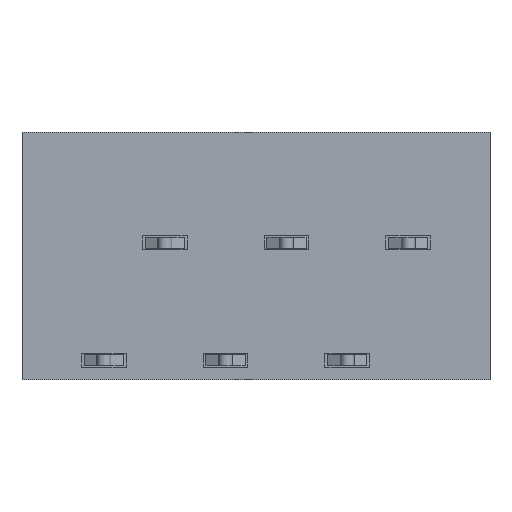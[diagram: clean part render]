
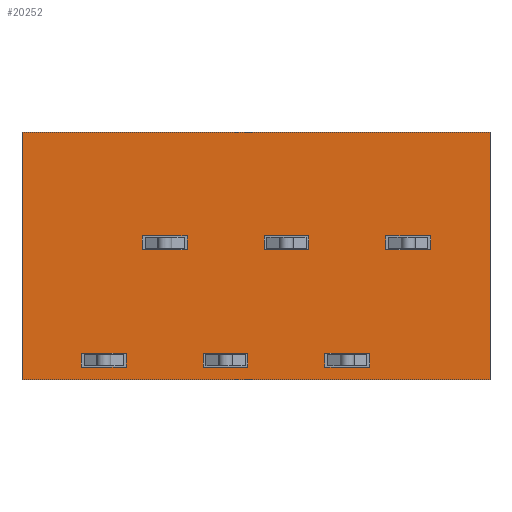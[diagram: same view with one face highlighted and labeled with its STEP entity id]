
A CAD part, front view. The second image highlights one B-rep face of the part: STEP entity #20252.
In plain terms, the highlighted planar face has unit normal (0, -1, 0).
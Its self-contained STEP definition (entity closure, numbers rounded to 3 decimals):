
#1575=VERTEX_POINT('',#27632);
#1576=VERTEX_POINT('',#27634);
#1577=VERTEX_POINT('',#27638);
#1578=VERTEX_POINT('',#27642);
#1747=VERTEX_POINT('',#29002);
#1748=VERTEX_POINT('',#29004);
#1783=VERTEX_POINT('',#29085);
#1784=VERTEX_POINT('',#29086);
#1785=VERTEX_POINT('',#29091);
#1786=VERTEX_POINT('',#29095);
#1824=VERTEX_POINT('',#29194);
#1825=VERTEX_POINT('',#29195);
#1857=VERTEX_POINT('',#29271);
#1858=VERTEX_POINT('',#29272);
#1859=VERTEX_POINT('',#29277);
#1860=VERTEX_POINT('',#29281);
#2050=VERTEX_POINT('',#30683);
#2051=VERTEX_POINT('',#30685);
#2052=VERTEX_POINT('',#30689);
#2053=VERTEX_POINT('',#30693);
#2084=VERTEX_POINT('',#30770);
#2085=VERTEX_POINT('',#30771);
#2086=VERTEX_POINT('',#30776);
#2087=VERTEX_POINT('',#30780);
#2276=VERTEX_POINT('',#32182);
#2277=VERTEX_POINT('',#32184);
#2278=VERTEX_POINT('',#32188);
#2279=VERTEX_POINT('',#32192);
#3613=VECTOR('',#22668,1.);
#3615=VECTOR('',#22671,1.);
#3617=VECTOR('',#22674,1.);
#3619=VECTOR('',#22677,1.);
#3813=VECTOR('',#23053,1.);
#3850=VECTOR('',#23102,1.);
#3853=VECTOR('',#23106,1.);
#3855=VECTOR('',#23109,1.);
#3898=VECTOR('',#23169,1.);
#3902=VECTOR('',#23175,1.);
#3937=VECTOR('',#23222,1.);
#3940=VECTOR('',#23226,1.);
#3942=VECTOR('',#23229,1.);
#4126=VECTOR('',#23589,1.);
#4157=VECTOR('',#23631,1.);
#4159=VECTOR('',#23634,1.);
#4161=VECTOR('',#23637,1.);
#4163=VECTOR('',#23640,1.);
#4196=VECTOR('',#23686,1.);
#4199=VECTOR('',#23690,1.);
#4201=VECTOR('',#23693,1.);
#4203=VECTOR('',#23696,1.);
#4386=VECTOR('',#24055,1.);
#4416=VECTOR('',#24096,1.);
#4418=VECTOR('',#24099,1.);
#4420=VECTOR('',#24102,1.);
#4422=VECTOR('',#24105,1.);
#4423=VECTOR('',#24107,1.);
#5833=LINE('',#27633,#3613);
#5835=LINE('',#27637,#3615);
#5837=LINE('',#27641,#3617);
#5839=LINE('',#27645,#3619);
#6031=LINE('',#29003,#3813);
#6068=LINE('',#29084,#3850);
#6071=LINE('',#29090,#3853);
#6073=LINE('',#29094,#3855);
#6116=LINE('',#29185,#3898);
#6120=LINE('',#29193,#3902);
#6155=LINE('',#29270,#3937);
#6158=LINE('',#29276,#3940);
#6160=LINE('',#29280,#3942);
#6342=LINE('',#30615,#4126);
#6373=LINE('',#30684,#4157);
#6375=LINE('',#30688,#4159);
#6377=LINE('',#30692,#4161);
#6379=LINE('',#30696,#4163);
#6412=LINE('',#30769,#4196);
#6415=LINE('',#30775,#4199);
#6417=LINE('',#30779,#4201);
#6419=LINE('',#30783,#4203);
#6600=LINE('',#32116,#4386);
#6630=LINE('',#32183,#4416);
#6632=LINE('',#32187,#4418);
#6634=LINE('',#32191,#4420);
#6636=LINE('',#32195,#4422);
#6637=LINE('',#32197,#4423);
#8175=EDGE_CURVE('',#1576,#1575,#5833,.T.);
#8177=EDGE_CURVE('',#1577,#1576,#5835,.T.);
#8179=EDGE_CURVE('',#1578,#1577,#5837,.T.);
#8181=EDGE_CURVE('',#1575,#1578,#5839,.T.);
#8466=EDGE_CURVE('',#1748,#1747,#6031,.T.);
#8507=EDGE_CURVE('',#1783,#1784,#6068,.T.);
#8510=EDGE_CURVE('',#1784,#1785,#6071,.T.);
#8512=EDGE_CURVE('',#1786,#1783,#6073,.T.);
#8558=EDGE_CURVE('',#1786,#1785,#6116,.T.);
#8562=EDGE_CURVE('',#1824,#1825,#6120,.T.);
#8601=EDGE_CURVE('',#1857,#1858,#6155,.T.);
#8604=EDGE_CURVE('',#1858,#1859,#6158,.T.);
#8606=EDGE_CURVE('',#1860,#1857,#6160,.T.);
#8880=EDGE_CURVE('',#1860,#1859,#6342,.T.);
#8915=EDGE_CURVE('',#2051,#2050,#6373,.T.);
#8917=EDGE_CURVE('',#2052,#2051,#6375,.T.);
#8919=EDGE_CURVE('',#2053,#2052,#6377,.T.);
#8921=EDGE_CURVE('',#2050,#2053,#6379,.T.);
#8958=EDGE_CURVE('',#2084,#2085,#6412,.T.);
#8961=EDGE_CURVE('',#2085,#2086,#6415,.T.);
#8963=EDGE_CURVE('',#2087,#2084,#6417,.T.);
#8965=EDGE_CURVE('',#1748,#1825,#6419,.T.);
#9238=EDGE_CURVE('',#2087,#2086,#6600,.T.);
#9272=EDGE_CURVE('',#2277,#2276,#6630,.T.);
#9274=EDGE_CURVE('',#2278,#2277,#6632,.T.);
#9276=EDGE_CURVE('',#2279,#2278,#6634,.T.);
#9278=EDGE_CURVE('',#2276,#2279,#6636,.T.);
#9279=EDGE_CURVE('',#1747,#1824,#6637,.T.);
#13948=ORIENTED_EDGE('',*,*,#9279,.T.);
#13949=ORIENTED_EDGE('',*,*,#8562,.T.);
#13950=ORIENTED_EDGE('',*,*,#8965,.F.);
#13951=ORIENTED_EDGE('',*,*,#8466,.T.);
#13952=ORIENTED_EDGE('',*,*,#8175,.T.);
#13953=ORIENTED_EDGE('',*,*,#8181,.T.);
#13954=ORIENTED_EDGE('',*,*,#8179,.T.);
#13955=ORIENTED_EDGE('',*,*,#8177,.T.);
#13956=ORIENTED_EDGE('',*,*,#8880,.F.);
#13957=ORIENTED_EDGE('',*,*,#8606,.T.);
#13958=ORIENTED_EDGE('',*,*,#8601,.T.);
#13959=ORIENTED_EDGE('',*,*,#8604,.T.);
#13960=ORIENTED_EDGE('',*,*,#9238,.F.);
#13961=ORIENTED_EDGE('',*,*,#8963,.T.);
#13962=ORIENTED_EDGE('',*,*,#8958,.T.);
#13963=ORIENTED_EDGE('',*,*,#8961,.T.);
#13964=ORIENTED_EDGE('',*,*,#8915,.T.);
#13965=ORIENTED_EDGE('',*,*,#8921,.T.);
#13966=ORIENTED_EDGE('',*,*,#8919,.T.);
#13967=ORIENTED_EDGE('',*,*,#8917,.T.);
#13968=ORIENTED_EDGE('',*,*,#9272,.T.);
#13969=ORIENTED_EDGE('',*,*,#9278,.T.);
#13970=ORIENTED_EDGE('',*,*,#9276,.T.);
#13971=ORIENTED_EDGE('',*,*,#9274,.T.);
#13972=ORIENTED_EDGE('',*,*,#8558,.F.);
#13973=ORIENTED_EDGE('',*,*,#8512,.T.);
#13974=ORIENTED_EDGE('',*,*,#8507,.T.);
#13975=ORIENTED_EDGE('',*,*,#8510,.T.);
#17546=EDGE_LOOP('',(#13948,#13949,#13950,#13951));
#17547=EDGE_LOOP('',(#13952,#13953,#13954,#13955));
#17548=EDGE_LOOP('',(#13956,#13957,#13958,#13959));
#17549=EDGE_LOOP('',(#13960,#13961,#13962,#13963));
#17550=EDGE_LOOP('',(#13964,#13965,#13966,#13967));
#17551=EDGE_LOOP('',(#13968,#13969,#13970,#13971));
#17552=EDGE_LOOP('',(#13972,#13973,#13974,#13975));
#18924=FACE_BOUND('',#17546,.T.);
#18925=FACE_BOUND('',#17547,.T.);
#18926=FACE_BOUND('',#17548,.T.);
#18927=FACE_BOUND('',#17549,.T.);
#18928=FACE_BOUND('',#17550,.T.);
#18929=FACE_BOUND('',#17551,.T.);
#18930=FACE_BOUND('',#17552,.T.);
#20252=ADVANCED_FACE('',(#18924,#18925,#18926,#18927,#18928,#18929,#18930),
#38431,.T.);
#21475=AXIS2_PLACEMENT_3D('',#32196,#24106,$);
#22668=DIRECTION('',(-1.,0.,0.));
#22671=DIRECTION('',(0.,0.,-1.));
#22674=DIRECTION('',(1.,0.,0.));
#22677=DIRECTION('',(0.,0.,1.));
#23053=DIRECTION('',(0.,0.,-1.));
#23102=DIRECTION('',(1.,0.,0.));
#23106=DIRECTION('',(0.,0.,-1.));
#23109=DIRECTION('',(0.,0.,1.));
#23169=DIRECTION('',(1.,0.,0.));
#23175=DIRECTION('',(0.,0.,1.));
#23222=DIRECTION('',(1.,0.,0.));
#23226=DIRECTION('',(0.,0.,-1.));
#23229=DIRECTION('',(0.,0.,1.));
#23589=DIRECTION('',(1.,0.,0.));
#23631=DIRECTION('',(-1.,0.,0.));
#23634=DIRECTION('',(0.,0.,-1.));
#23637=DIRECTION('',(1.,0.,0.));
#23640=DIRECTION('',(0.,0.,1.));
#23686=DIRECTION('',(1.,0.,0.));
#23690=DIRECTION('',(0.,0.,-1.));
#23693=DIRECTION('',(0.,0.,1.));
#23696=DIRECTION('',(1.,0.,0.));
#24055=DIRECTION('',(1.,0.,0.));
#24096=DIRECTION('',(-1.,0.,0.));
#24099=DIRECTION('',(0.,0.,-1.));
#24102=DIRECTION('',(1.,0.,0.));
#24105=DIRECTION('',(0.,0.,1.));
#24106=DIRECTION('',(0.,-1.,0.));
#24107=DIRECTION('',(1.,0.,0.));
#27632=CARTESIAN_POINT('',(4.25,0.,0.9));
#27633=CARTESIAN_POINT('',(4.05,0.,0.9));
#27634=CARTESIAN_POINT('',(7.45,0.,0.9));
#27637=CARTESIAN_POINT('',(7.45,0.,3.025));
#27638=CARTESIAN_POINT('',(7.45,0.,1.9));
#27641=CARTESIAN_POINT('',(4.05,0.,1.9));
#27642=CARTESIAN_POINT('',(4.25,0.,1.9));
#27645=CARTESIAN_POINT('',(4.25,0.,3.025));
#29002=CARTESIAN_POINT('',(0.,0.,0.));
#29003=CARTESIAN_POINT('',(0.,0.,17.7));
#29004=CARTESIAN_POINT('',(0.,0.,17.7));
#29084=CARTESIAN_POINT('',(8.4,0.,10.3));
#29085=CARTESIAN_POINT('',(8.6,0.,10.3));
#29086=CARTESIAN_POINT('',(11.8,0.,10.3));
#29090=CARTESIAN_POINT('',(11.8,0.,11.65));
#29091=CARTESIAN_POINT('',(11.8,0.,9.3));
#29094=CARTESIAN_POINT('',(8.6,0.,11.65));
#29095=CARTESIAN_POINT('',(8.6,0.,9.3));
#29185=CARTESIAN_POINT('',(2.25,0.,9.3));
#29193=CARTESIAN_POINT('',(33.45,0.,9.3));
#29194=CARTESIAN_POINT('',(33.45,0.,0.));
#29195=CARTESIAN_POINT('',(33.45,0.,17.7));
#29270=CARTESIAN_POINT('',(25.8,0.,10.3));
#29271=CARTESIAN_POINT('',(26.,0.,10.3));
#29272=CARTESIAN_POINT('',(29.2,0.,10.3));
#29276=CARTESIAN_POINT('',(29.2,0.,11.65));
#29277=CARTESIAN_POINT('',(29.2,0.,9.3));
#29280=CARTESIAN_POINT('',(26.,0.,11.65));
#29281=CARTESIAN_POINT('',(26.,0.,9.3));
#30615=CARTESIAN_POINT('',(19.65,0.,9.3));
#30683=CARTESIAN_POINT('',(21.65,0.,0.9));
#30684=CARTESIAN_POINT('',(21.45,0.,0.9));
#30685=CARTESIAN_POINT('',(24.85,0.,0.9));
#30688=CARTESIAN_POINT('',(24.85,0.,3.025));
#30689=CARTESIAN_POINT('',(24.85,0.,1.9));
#30692=CARTESIAN_POINT('',(21.45,0.,1.9));
#30693=CARTESIAN_POINT('',(21.65,0.,1.9));
#30696=CARTESIAN_POINT('',(21.65,0.,3.025));
#30769=CARTESIAN_POINT('',(17.1,0.,10.3));
#30770=CARTESIAN_POINT('',(17.3,0.,10.3));
#30771=CARTESIAN_POINT('',(20.5,0.,10.3));
#30775=CARTESIAN_POINT('',(20.5,0.,11.65));
#30776=CARTESIAN_POINT('',(20.5,0.,9.3));
#30779=CARTESIAN_POINT('',(17.3,0.,11.65));
#30780=CARTESIAN_POINT('',(17.3,0.,9.3));
#30783=CARTESIAN_POINT('',(0.,0.,17.7));
#32116=CARTESIAN_POINT('',(10.95,0.,9.3));
#32182=CARTESIAN_POINT('',(12.95,0.,0.9));
#32183=CARTESIAN_POINT('',(12.75,0.,0.9));
#32184=CARTESIAN_POINT('',(16.15,0.,0.9));
#32187=CARTESIAN_POINT('',(16.15,0.,3.025));
#32188=CARTESIAN_POINT('',(16.15,0.,1.9));
#32191=CARTESIAN_POINT('',(12.75,0.,1.9));
#32192=CARTESIAN_POINT('',(12.95,0.,1.9));
#32195=CARTESIAN_POINT('',(12.95,0.,3.025));
#32196=CARTESIAN_POINT('',(10.95,0.,4.65));
#32197=CARTESIAN_POINT('',(0.,0.,0.));
#38431=PLANE('',#21475);
